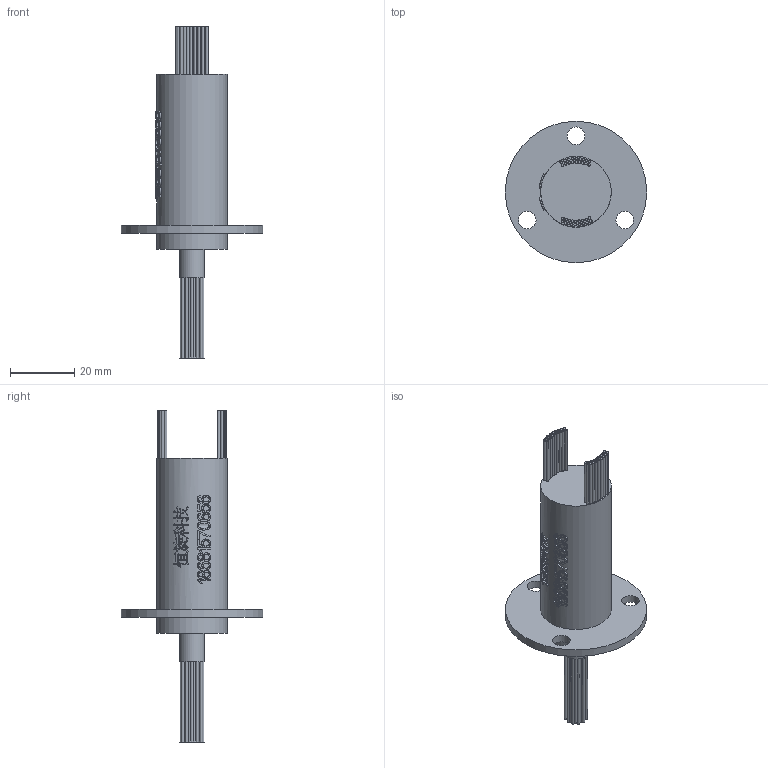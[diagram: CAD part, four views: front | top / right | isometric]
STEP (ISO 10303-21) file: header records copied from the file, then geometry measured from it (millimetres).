
FILE_DESCRIPTION(/* description */ (''),/* implementation_level */ '2;1');
FILE_NAME(/* name */ 'HM022-36.stp',/* time_stamp */ '2025-09-23T10:26:14+08:00',/* author */ (''),/* organization */ (''),/* preprocessor_version */ 'ST-DEVELOPER v16.7',/* originating_system */ 'SIEMENS PLM Software NX 12.0',/* authorisation */ '');
FILE_SCHEMA (('AUTOMOTIVE_DESIGN { 1 0 10303 214 3 1 1 1 }'));
Length unit declared in the file: millimetre
Products named in the file (1): Admi3294BFCC0msa
Bounding box: 44 x 44 x 103.3 mm (x, y, z)
Volume: 24644 mm3; surface area: 11385 mm2
Topology: 1 solids, 1 shells, 697 faces, 1733 edges, 1156 vertices
Faces by surface type: extrusion 311, plane 264, cylinder 96, bspline 26
Full cylindrical faces by diameter (mm): 0.8 x78, 5.5 x3, 7.8 x1, 22 x2, 44 x1
Entity records: 25835 total; most frequent: CARTESIAN_POINT 11737, ORIENTED_EDGE 3292, DIRECTION 1735, EDGE_CURVE 1646, B_SPLINE_CURVE_WITH_KNOTS 1557, VERTEX_POINT 1154, EDGE_LOOP 906, ADVANCED_FACE 697
